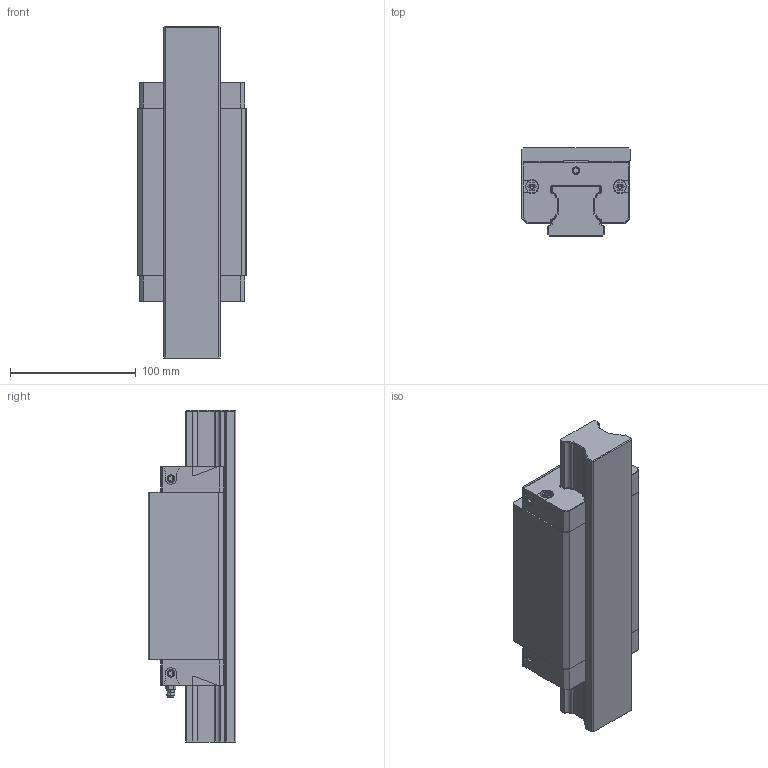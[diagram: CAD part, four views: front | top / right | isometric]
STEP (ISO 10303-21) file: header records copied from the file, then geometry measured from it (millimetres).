
FILE_DESCRIPTION((''),'2;1');
FILE_NAME('KWD_045_SLH_CS__ASM','2021-10-14T07:39:45',('ac91sw'),(''),'CREO PARAMETRIC BY PTC INC, 2020044','CREO PARAMETRIC BY PTC INC, 2020044','');
FILE_SCHEMA(('AUTOMOTIVE_DESIGN { 1 0 10303 214 1 1 1 1 }'));
Length unit declared in the file: millimetre
Products named in the file (7): KWD_045_SLH_CS__SKEL; R201540301; R200140102_Z; R343706101_Z; KWD_045_SLH_CS__PSF; R341700802_Z; KWD_045_SLH_CS__ASM
Assembly tree (11 placements, depth 2):
  KWD_045_SLH_CS__ASM
    KWD_045_SLH_CS__SKEL
    R201540301
    R200140102_Z  x2
    R343706101_Z  x5
    KWD_045_SLH_CS__PSF
    R341700802_Z
Bounding box: 86 x 70 x 264.1 mm (x, y, z)
Volume: 953523.5 mm3; surface area: 154251.2 mm2
Topology: 10 solids, 24 shells, 512 faces, 1310 edges, 830 vertices
Faces by surface type: plane 292, cylinder 142, cone 72, torus 4, sphere 2
Entity records: 16416 total; most frequent: CARTESIAN_POINT 1937, DIRECTION 1648, ORIENTED_EDGE 1540, PROPERTY_DEFINITION 822, REPRESENTATION 813, PROPERTY_DEFINITION_REPRESENTATION 813, EDGE_CURVE 786, DESCRIPTIVE_REPRESENTATION_ITEM 756
